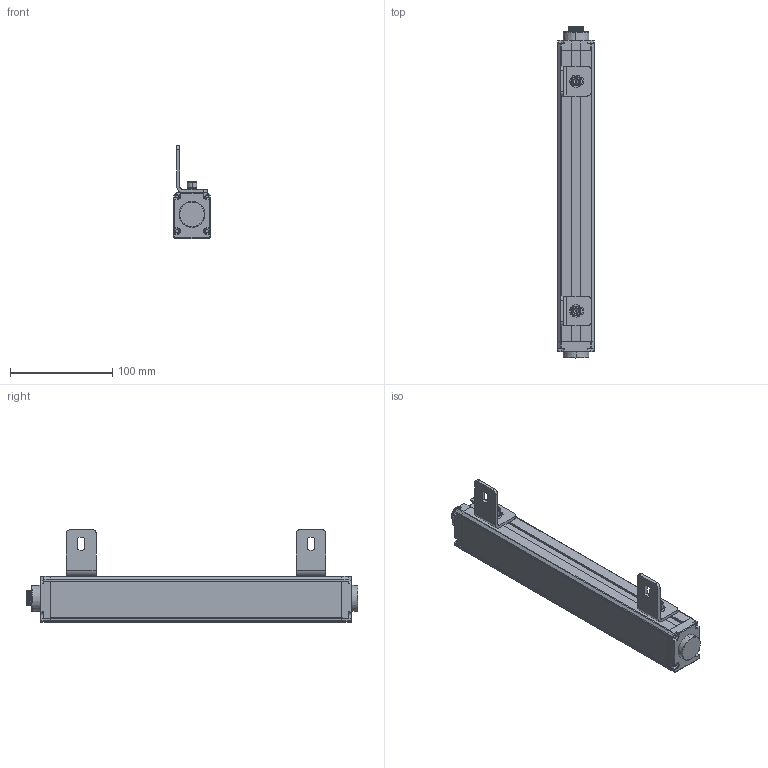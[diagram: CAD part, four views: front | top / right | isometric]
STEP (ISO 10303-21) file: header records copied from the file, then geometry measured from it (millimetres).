
FILE_DESCRIPTION((''),'2;1');
FILE_NAME('ESCL-00_ASM','2021-07-17T12:15:34',('18720616900'),(''),'CREO PARAMETRIC BY PTC INC, 2019010','CREO PARAMETRIC BY PTC INC, 2019010','');
FILE_SCHEMA(('CONFIG_CONTROL_DESIGN'));
Products named in the file (12): ESCL-00; ESCL-3-SOLID1000; ESCL-4-SOLID1000; HKCT1_-4-SOLID1; L10001; M6-8--0001; M6-1--00; M6-1-00; 00; M6-80001_ASM; L1--0001_ASM; ESCL-00_ASM
Assembly tree (12 placements, depth 4):
  ESCL-00_ASM
    ESCL-00
    ESCL-3-SOLID1000
    ESCL-4-SOLID1000
    HKCT1_-4-SOLID1
    L1--0001_ASM  x2
      L10001
      M6-80001_ASM
        M6-8--0001
        M6-1--00
        M6-1-00
        00
Bounding box: 36.1 x 325.1 x 91.11 mm (x, y, z)
Volume: 459475.2 mm3; surface area: 83832.1 mm2
Topology: 14 solids, 14 shells, 625 faces, 1645 edges, 1070 vertices
Faces by surface type: plane 226, cylinder 208, cone 78, bspline 66, torus 47
Entity records: 76177 total; most frequent: CARTESIAN_POINT 63991, ORIENTED_EDGE 2664, DIRECTION 2275, EDGE_CURVE 1332, VERTEX_POINT 872, AXIS2_PLACEMENT_3D 816, VECTOR 643, LINE 643
